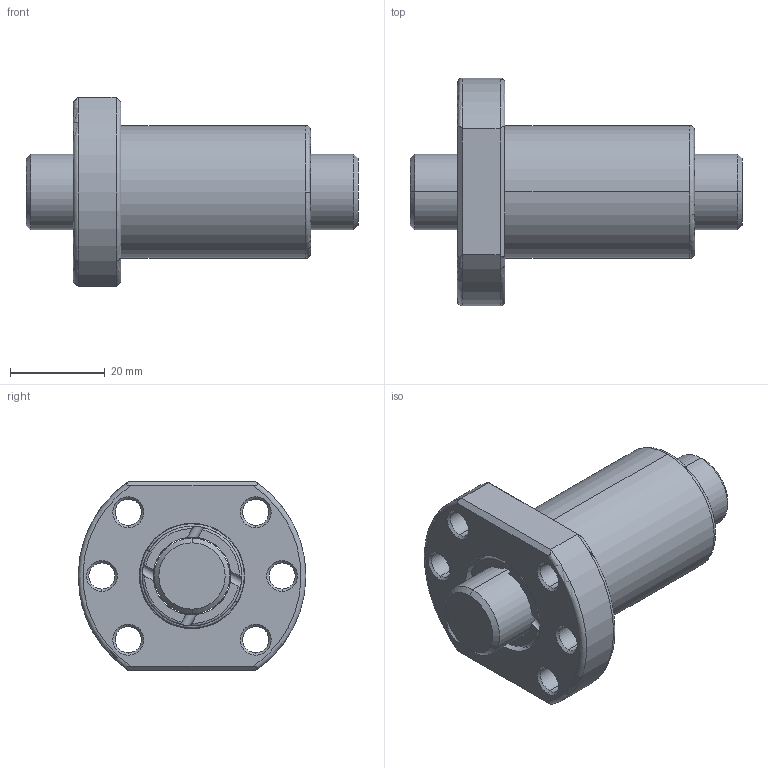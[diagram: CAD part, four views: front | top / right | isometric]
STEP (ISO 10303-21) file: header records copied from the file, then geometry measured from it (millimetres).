
FILE_DESCRIPTION (( 'STEP AP203' ), '1' );
FILE_NAME ('SFUR01605T4D-C.STEP', '2020-06-16T07:23:06', ( '' ), ( '' ), 'SwSTEP 2.0', 'SolidWorks 2013', '' );
FILE_SCHEMA (( 'CONFIG_CONTROL_DESIGN' ));
Length unit declared in the file: millimetre
Products named in the file (1): SFUR01605T4D-C
Bounding box: 70 x 48 x 40 mm (x, y, z)
Volume: 41159.7 mm3; surface area: 17022.7 mm2
Topology: 2 solids, 2 shells, 118 faces, 320 edges, 208 vertices
Faces by surface type: cylinder 54, plane 24, bspline 18, cone 16, torus 6
Entity records: 5352 total; most frequent: CARTESIAN_POINT 2404, ORIENTED_EDGE 640, DIRECTION 570, EDGE_CURVE 320, AXIS2_PLACEMENT_3D 243, VERTEX_POINT 208, CIRCLE 142, EDGE_LOOP 138
